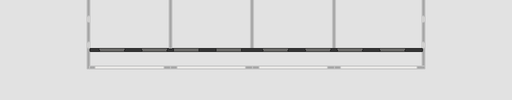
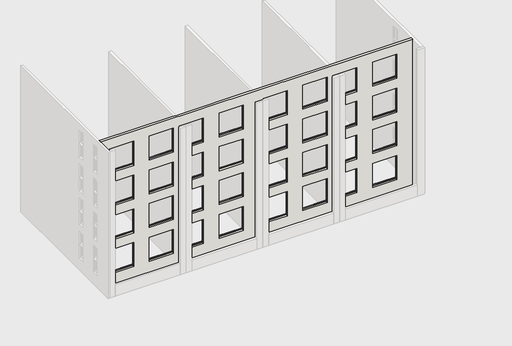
# One storey, part 3 of 5: 1 wall.
"""IFC4 building model written with IfcOpenShell, lengths in millimetres."""

from ifc_helpers import new_model, si_unit, origin, place, context, project, spatial, faceted_brep, element, save

model = new_model("IFC4")

# Units and contexts
model_context = context("Model", 3, world=origin())
ifc_project = project(units=[si_unit("LENGTHUNIT", "METRE", prefix="MILLI")], contexts=[model_context])

# Site, building, storey
site = spatial("IfcSite", under=ifc_project)
building = spatial("IfcBuilding", under=site)
storey = spatial("IfcBuildingStorey", under=building, Name="設計GL", Elevation=0.0)

# Wall
placement = place(None, origin())
element("IfcWall", 1, ObjectType="(R)RC200", at=placement, inside=storey, context=model_context, shape_type="Brep", body=[
    faceted_brep([(15121.2812754, -15270.1171638, -1200.0), (8271.2812754, -15270.1171638, -1200.0), (8071.2812754, -15270.1171638, -1200.0), (1821.2812754, -15270.1171638, -1200.0), (1621.2812754, -15270.1171638, -1200.0), (-4628.7187246, -15270.1171638, -1200.0), (-4828.7187246, -15270.1171638, -1200.0), (-11078.7187246, -15270.1171638, -1200.0), (-11078.7187246, -15270.1171638, 13000.0), (-4828.7187246, -15270.1171638, 13000.0), (-4628.7187246, -15270.1171638, 13000.0), (1621.2812754, -15270.1171638, 13000.0), (1821.2812754, -15270.1171638, 13000.0), (8071.2812754, -15270.1171638, 13000.0), (8271.2812754, -15270.1171638, 13000.0), (15121.2812754, -15270.1171638, 13000.0), (-10368.7187246, -15270.1171638, 3135.0), (-10368.7187246, -15270.1171638, 1065.0), (-8288.7187246, -15270.1171638, 1065.0), (-8288.7187246, -15270.1171638, 3135.0), (-7018.7187246, -15270.1171638, 3135.0), (-7018.7187246, -15270.1171638, 1065.0), (-4938.7187246, -15270.1171638, 1065.0), (-4938.7187246, -15270.1171638, 3135.0), (-4518.7187246, -15270.1171638, 3135.0), (-4518.7187246, -15270.1171638, 1065.0), (-2438.7187246, -15270.1171638, 1065.0), (-2438.7187246, -15270.1171638, 3135.0), (-1168.7187246, -15270.1171638, 3135.0), (-1168.7187246, -15270.1171638, 1065.0), (911.2812754, -15270.1171638, 1065.0), (911.2812754, -15270.1171638, 3135.0), (8381.2812754, -15270.1171638, 3135.0), (8381.2812754, -15270.1171638, 1065.0), (10461.2812754, -15270.1171638, 1065.0), (10461.2812754, -15270.1171638, 3135.0), (11731.2812754, -15270.1171638, 3135.0), (11731.2812754, -15270.1171638, 1065.0), (13811.2812754, -15270.1171638, 1065.0), (13811.2812754, -15270.1171638, 3135.0), (5881.2812754, -15270.1171638, 3135.0), (5881.2812754, -15270.1171638, 1065.0), (7961.2812754, -15270.1171638, 1065.0), (7961.2812754, -15270.1171638, 3135.0), (2531.2812754, -15270.1171638, 3135.0), (2531.2812754, -15270.1171638, 1065.0), (4611.2812754, -15270.1171638, 1065.0), (4611.2812754, -15270.1171638, 3135.0), (8381.2812754, -15270.1171638, 6135.0), (8381.2812754, -15270.1171638, 4065.0), (10461.2812754, -15270.1171638, 4065.0), (10461.2812754, -15270.1171638, 6135.0), (11731.2812754, -15270.1171638, 6135.0), (11731.2812754, -15270.1171638, 4065.0), (13811.2812754, -15270.1171638, 4065.0), (13811.2812754, -15270.1171638, 6135.0), (5881.2812754, -15270.1171638, 6135.0), (5881.2812754, -15270.1171638, 4065.0), (7961.2812754, -15270.1171638, 4065.0), (7961.2812754, -15270.1171638, 6135.0), (2531.2812754, -15270.1171638, 6135.0), (2531.2812754, -15270.1171638, 4065.0), (4611.2812754, -15270.1171638, 4065.0), (4611.2812754, -15270.1171638, 6135.0), (-4518.7187246, -15270.1171638, 6135.0), (-4518.7187246, -15270.1171638, 4065.0), (-2438.7187246, -15270.1171638, 4065.0), (-2438.7187246, -15270.1171638, 6135.0), (-1168.7187246, -15270.1171638, 6135.0), (-1168.7187246, -15270.1171638, 4065.0), (911.2812754, -15270.1171638, 4065.0), (911.2812754, -15270.1171638, 6135.0), (-7018.7187246, -15270.1171638, 6135.0), (-7018.7187246, -15270.1171638, 4065.0), (-4938.7187246, -15270.1171638, 4065.0), (-4938.7187246, -15270.1171638, 6135.0), (-10368.7187246, -15270.1171638, 6135.0), (-10368.7187246, -15270.1171638, 4065.0), (-8288.7187246, -15270.1171638, 4065.0), (-8288.7187246, -15270.1171638, 6135.0), (8381.2812754, -15270.1171638, 9135.0), (8381.2812754, -15270.1171638, 7065.0), (10461.2812754, -15270.1171638, 7065.0), (10461.2812754, -15270.1171638, 9135.0), (11731.2812754, -15270.1171638, 9135.0), (11731.2812754, -15270.1171638, 7065.0), (13811.2812754, -15270.1171638, 7065.0), (13811.2812754, -15270.1171638, 9135.0), (5881.2812754, -15270.1171638, 9135.0), (5881.2812754, -15270.1171638, 7065.0), (7961.2812754, -15270.1171638, 7065.0), (7961.2812754, -15270.1171638, 9135.0), (2531.2812754, -15270.1171638, 9135.0), (2531.2812754, -15270.1171638, 7065.0), (4611.2812754, -15270.1171638, 7065.0), (4611.2812754, -15270.1171638, 9135.0), (-4518.7187246, -15270.1171638, 9135.0), (-4518.7187246, -15270.1171638, 7065.0), (-2438.7187246, -15270.1171638, 7065.0), (-2438.7187246, -15270.1171638, 9135.0), (-1168.7187246, -15270.1171638, 9135.0), (-1168.7187246, -15270.1171638, 7065.0), (911.2812754, -15270.1171638, 7065.0), (911.2812754, -15270.1171638, 9135.0), (-7018.7187246, -15270.1171638, 9135.0), (-7018.7187246, -15270.1171638, 7065.0), (-4938.7187246, -15270.1171638, 7065.0), (-4938.7187246, -15270.1171638, 9135.0), (-10368.7187246, -15270.1171638, 9135.0), (-10368.7187246, -15270.1171638, 7065.0), (-8288.7187246, -15270.1171638, 7065.0), (-8288.7187246, -15270.1171638, 9135.0), (8381.2812754, -15270.1171638, 12135.0), (8381.2812754, -15270.1171638, 10065.0), (10461.2812754, -15270.1171638, 10065.0), (10461.2812754, -15270.1171638, 12135.0), (11731.2812754, -15270.1171638, 12135.0), (11731.2812754, -15270.1171638, 10065.0), (13811.2812754, -15270.1171638, 10065.0), (13811.2812754, -15270.1171638, 12135.0), (5881.2812754, -15270.1171638, 12135.0), (5881.2812754, -15270.1171638, 10065.0), (7961.2812754, -15270.1171638, 10065.0), (7961.2812754, -15270.1171638, 12135.0), (2531.2812754, -15270.1171638, 12135.0), (2531.2812754, -15270.1171638, 10065.0), (4611.2812754, -15270.1171638, 10065.0), (4611.2812754, -15270.1171638, 12135.0), (-4518.7187246, -15270.1171638, 12135.0), (-4518.7187246, -15270.1171638, 10065.0), (-2438.7187246, -15270.1171638, 10065.0), (-2438.7187246, -15270.1171638, 12135.0), (-1168.7187246, -15270.1171638, 12135.0), (-1168.7187246, -15270.1171638, 10065.0), (911.2812754, -15270.1171638, 10065.0), (911.2812754, -15270.1171638, 12135.0), (-7018.7187246, -15270.1171638, 12135.0), (-7018.7187246, -15270.1171638, 10065.0), (-4938.7187246, -15270.1171638, 10065.0), (-4938.7187246, -15270.1171638, 12135.0), (-10368.7187246, -15270.1171638, 12135.0), (-10368.7187246, -15270.1171638, 10065.0), (-8288.7187246, -15270.1171638, 10065.0), (-8288.7187246, -15270.1171638, 12135.0), (15121.2812754, -15470.1171638, -1200.0), (15121.2812754, -15470.1171638, 13000.0), (-11078.7187246, -15470.1171638, 13000.0), (-11078.7187246, -15470.1171638, -1200.0), (-8318.7187246, -15470.1171638, 975.0), (-10338.7187246, -15470.1171638, 975.0), (-10338.7187246, -15470.1171638, 3110.0), (-8318.7187246, -15470.1171638, 3110.0), (-4968.7187246, -15470.1171638, 975.0), (-6988.7187246, -15470.1171638, 975.0), (-6988.7187246, -15470.1171638, 3110.0), (-4968.7187246, -15470.1171638, 3110.0), (-2468.7187246, -15470.1171638, 975.0), (-4488.7187246, -15470.1171638, 975.0), (-4488.7187246, -15470.1171638, 3110.0), (-2468.7187246, -15470.1171638, 3110.0), (881.2812754, -15470.1171638, 975.0), (-1138.7187246, -15470.1171638, 975.0), (-1138.7187246, -15470.1171638, 3110.0), (881.2812754, -15470.1171638, 3110.0), (10431.2812754, -15470.1171638, 975.0), (8411.2812754, -15470.1171638, 975.0), (8411.2812754, -15470.1171638, 3110.0), (10431.2812754, -15470.1171638, 3110.0), (13781.2812754, -15470.1171638, 975.0), (11761.2812754, -15470.1171638, 975.0), (11761.2812754, -15470.1171638, 3110.0), (13781.2812754, -15470.1171638, 3110.0), (7931.2812754, -15470.1171638, 975.0), (5911.2812754, -15470.1171638, 975.0), (5911.2812754, -15470.1171638, 3110.0), (7931.2812754, -15470.1171638, 3110.0), (4581.2812754, -15470.1171638, 975.0), (2561.2812754, -15470.1171638, 975.0), (2561.2812754, -15470.1171638, 3110.0), (4581.2812754, -15470.1171638, 3110.0), (10431.2812754, -15470.1171638, 3975.0), (8411.2812754, -15470.1171638, 3975.0), (8411.2812754, -15470.1171638, 6110.0), (10431.2812754, -15470.1171638, 6110.0), (13781.2812754, -15470.1171638, 3975.0), (11761.2812754, -15470.1171638, 3975.0), (11761.2812754, -15470.1171638, 6110.0), (13781.2812754, -15470.1171638, 6110.0), (7931.2812754, -15470.1171638, 3975.0), (5911.2812754, -15470.1171638, 3975.0), (5911.2812754, -15470.1171638, 6110.0), (7931.2812754, -15470.1171638, 6110.0), (4581.2812754, -15470.1171638, 3975.0), (2561.2812754, -15470.1171638, 3975.0), (2561.2812754, -15470.1171638, 6110.0), (4581.2812754, -15470.1171638, 6110.0), (-2468.7187246, -15470.1171638, 3975.0), (-4488.7187246, -15470.1171638, 3975.0), (-4488.7187246, -15470.1171638, 6110.0), (-2468.7187246, -15470.1171638, 6110.0), (881.2812754, -15470.1171638, 3975.0), (-1138.7187246, -15470.1171638, 3975.0), (-1138.7187246, -15470.1171638, 6110.0), (881.2812754, -15470.1171638, 6110.0), (-4968.7187246, -15470.1171638, 3975.0), (-6988.7187246, -15470.1171638, 3975.0), (-6988.7187246, -15470.1171638, 6110.0), (-4968.7187246, -15470.1171638, 6110.0), (-8318.7187246, -15470.1171638, 3975.0), (-10338.7187246, -15470.1171638, 3975.0), (-10338.7187246, -15470.1171638, 6110.0), (-8318.7187246, -15470.1171638, 6110.0), (10431.2812754, -15470.1171638, 6975.0), (8411.2812754, -15470.1171638, 6975.0), (8411.2812754, -15470.1171638, 9110.0), (10431.2812754, -15470.1171638, 9110.0), (13781.2812754, -15470.1171638, 6975.0), (11761.2812754, -15470.1171638, 6975.0), (11761.2812754, -15470.1171638, 9110.0), (13781.2812754, -15470.1171638, 9110.0), (7931.2812754, -15470.1171638, 6975.0), (5911.2812754, -15470.1171638, 6975.0), (5911.2812754, -15470.1171638, 9110.0), (7931.2812754, -15470.1171638, 9110.0), (4581.2812754, -15470.1171638, 6975.0), (2561.2812754, -15470.1171638, 6975.0), (2561.2812754, -15470.1171638, 9110.0), (4581.2812754, -15470.1171638, 9110.0), (-2468.7187246, -15470.1171638, 6975.0), (-4488.7187246, -15470.1171638, 6975.0), (-4488.7187246, -15470.1171638, 9110.0), (-2468.7187246, -15470.1171638, 9110.0), (881.2812754, -15470.1171638, 6975.0), (-1138.7187246, -15470.1171638, 6975.0), (-1138.7187246, -15470.1171638, 9110.0), (881.2812754, -15470.1171638, 9110.0), (-4968.7187246, -15470.1171638, 6975.0), (-6988.7187246, -15470.1171638, 6975.0), (-6988.7187246, -15470.1171638, 9110.0), (-4968.7187246, -15470.1171638, 9110.0), (-8318.7187246, -15470.1171638, 6975.0), (-10338.7187246, -15470.1171638, 6975.0), (-10338.7187246, -15470.1171638, 9110.0), (-8318.7187246, -15470.1171638, 9110.0), (10431.2812754, -15470.1171638, 9975.0), (8411.2812754, -15470.1171638, 9975.0), (8411.2812754, -15470.1171638, 12110.0), (10431.2812754, -15470.1171638, 12110.0), (13781.2812754, -15470.1171638, 9975.0), (11761.2812754, -15470.1171638, 9975.0), (11761.2812754, -15470.1171638, 12110.0), (13781.2812754, -15470.1171638, 12110.0), (7931.2812754, -15470.1171638, 9975.0), (5911.2812754, -15470.1171638, 9975.0), (5911.2812754, -15470.1171638, 12110.0), (7931.2812754, -15470.1171638, 12110.0), (4581.2812754, -15470.1171638, 9975.0), (2561.2812754, -15470.1171638, 9975.0), (2561.2812754, -15470.1171638, 12110.0), (4581.2812754, -15470.1171638, 12110.0), (-2468.7187246, -15470.1171638, 9975.0), (-4488.7187246, -15470.1171638, 9975.0), (-4488.7187246, -15470.1171638, 12110.0), (-2468.7187246, -15470.1171638, 12110.0), (881.2812754, -15470.1171638, 9975.0), (-1138.7187246, -15470.1171638, 9975.0), (-1138.7187246, -15470.1171638, 12110.0), (881.2812754, -15470.1171638, 12110.0), (-4968.7187246, -15470.1171638, 9975.0), (-6988.7187246, -15470.1171638, 9975.0), (-6988.7187246, -15470.1171638, 12110.0), (-4968.7187246, -15470.1171638, 12110.0), (-8318.7187246, -15470.1171638, 9975.0), (-10338.7187246, -15470.1171638, 9975.0), (-10338.7187246, -15470.1171638, 12110.0), (-8318.7187246, -15470.1171638, 12110.0), (-10368.7187246, -15340.1171638, 3135.0), (-10368.7187246, -15340.1171638, 1065.0), (-8288.7187246, -15340.1171638, 1065.0), (-8288.7187246, -15340.1171638, 3135.0), (-10358.7187246, -15340.1171638, 1065.0), (-8298.7187246, -15340.1171638, 1065.0), (-8298.7187246, -15340.1171638, 3130.0), (-10358.7187246, -15340.1171638, 3130.0), (-10358.7187246, -15410.1171638, 3130.0), (-10358.7187246, -15410.1171638, 984.2307692), (-10358.7187246, -15340.1171638, 995.0), (-8298.7187246, -15340.1171638, 995.0), (-8298.7187246, -15410.1171638, 984.2307692), (-8298.7187246, -15410.1171638, 3130.0), (-10338.7187246, -15410.1171638, 984.2307692), (-8318.7187246, -15410.1171638, 984.2307692), (-8318.7187246, -15410.1171638, 3110.0), (-10338.7187246, -15410.1171638, 3110.0), (-7018.7187246, -15340.1171638, 3135.0), (-7018.7187246, -15340.1171638, 1065.0), (-4938.7187246, -15340.1171638, 1065.0), (-4938.7187246, -15340.1171638, 3135.0), (-7008.7187246, -15340.1171638, 1065.0), (-4948.7187246, -15340.1171638, 1065.0), (-4948.7187246, -15340.1171638, 3130.0), (-7008.7187246, -15340.1171638, 3130.0), (-7008.7187246, -15410.1171638, 3130.0), (-7008.7187246, -15410.1171638, 984.2307692), (-7008.7187246, -15340.1171638, 995.0), (-4948.7187246, -15340.1171638, 995.0), (-4948.7187246, -15410.1171638, 984.2307692), (-4948.7187246, -15410.1171638, 3130.0), (-6988.7187246, -15410.1171638, 984.2307692), (-4968.7187246, -15410.1171638, 984.2307692), (-4968.7187246, -15410.1171638, 3110.0), (-6988.7187246, -15410.1171638, 3110.0), (-4518.7187246, -15340.1171638, 3135.0), (-4518.7187246, -15340.1171638, 1065.0), (-2438.7187246, -15340.1171638, 1065.0), (-2438.7187246, -15340.1171638, 3135.0), (-4508.7187246, -15340.1171638, 1065.0), (-2448.7187246, -15340.1171638, 1065.0), (-2448.7187246, -15340.1171638, 3130.0), (-4508.7187246, -15340.1171638, 3130.0), (-4508.7187246, -15410.1171638, 3130.0), (-4508.7187246, -15410.1171638, 984.2307692), (-4508.7187246, -15340.1171638, 995.0), (-2448.7187246, -15340.1171638, 995.0), (-2448.7187246, -15410.1171638, 984.2307692), (-2448.7187246, -15410.1171638, 3130.0), (-4488.7187246, -15410.1171638, 984.2307692), (-2468.7187246, -15410.1171638, 984.2307692), (-2468.7187246, -15410.1171638, 3110.0), (-4488.7187246, -15410.1171638, 3110.0), (-1168.7187246, -15340.1171638, 3135.0), (-1168.7187246, -15340.1171638, 1065.0), (911.2812754, -15340.1171638, 1065.0), (911.2812754, -15340.1171638, 3135.0), (-1158.7187246, -15340.1171638, 1065.0), (901.2812754, -15340.1171638, 1065.0), (901.2812754, -15340.1171638, 3130.0), (-1158.7187246, -15340.1171638, 3130.0), (-1158.7187246, -15410.1171638, 3130.0), (-1158.7187246, -15410.1171638, 984.2307692), (-1158.7187246, -15340.1171638, 995.0), (901.2812754, -15340.1171638, 995.0), (901.2812754, -15410.1171638, 984.2307692), (901.2812754, -15410.1171638, 3130.0), (-1138.7187246, -15410.1171638, 984.2307692), (881.2812754, -15410.1171638, 984.2307692), (881.2812754, -15410.1171638, 3110.0), (-1138.7187246, -15410.1171638, 3110.0), (8381.2812754, -15340.1171638, 3135.0), (8381.2812754, -15340.1171638, 1065.0), (10461.2812754, -15340.1171638, 1065.0), (10461.2812754, -15340.1171638, 3135.0), (8391.2812754, -15340.1171638, 1065.0), (10451.2812754, -15340.1171638, 1065.0), (10451.2812754, -15340.1171638, 3130.0), (8391.2812754, -15340.1171638, 3130.0), (8391.2812754, -15410.1171638, 3130.0), (8391.2812754, -15410.1171638, 984.2307692), (8391.2812754, -15340.1171638, 995.0), (10451.2812754, -15340.1171638, 995.0), (10451.2812754, -15410.1171638, 984.2307692), (10451.2812754, -15410.1171638, 3130.0), (8411.2812754, -15410.1171638, 984.2307692), (10431.2812754, -15410.1171638, 984.2307692), (10431.2812754, -15410.1171638, 3110.0), (8411.2812754, -15410.1171638, 3110.0), (11731.2812754, -15340.1171638, 3135.0), (11731.2812754, -15340.1171638, 1065.0), (13811.2812754, -15340.1171638, 1065.0), (13811.2812754, -15340.1171638, 3135.0), (11741.2812754, -15340.1171638, 1065.0), (13801.2812754, -15340.1171638, 1065.0), (13801.2812754, -15340.1171638, 3130.0), (11741.2812754, -15340.1171638, 3130.0), (11741.2812754, -15410.1171638, 3130.0), (11741.2812754, -15410.1171638, 984.2307692), (11741.2812754, -15340.1171638, 995.0), (13801.2812754, -15340.1171638, 995.0), (13801.2812754, -15410.1171638, 984.2307692), (13801.2812754, -15410.1171638, 3130.0), (11761.2812754, -15410.1171638, 984.2307692), (13781.2812754, -15410.1171638, 984.2307692), (13781.2812754, -15410.1171638, 3110.0), (11761.2812754, -15410.1171638, 3110.0), (5881.2812754, -15340.1171638, 3135.0), (5881.2812754, -15340.1171638, 1065.0), (7961.2812754, -15340.1171638, 1065.0), (7961.2812754, -15340.1171638, 3135.0), (5891.2812754, -15340.1171638, 1065.0), (7951.2812754, -15340.1171638, 1065.0), (7951.2812754, -15340.1171638, 3130.0), (5891.2812754, -15340.1171638, 3130.0), (5891.2812754, -15410.1171638, 3130.0), (5891.2812754, -15410.1171638, 984.2307692), (5891.2812754, -15340.1171638, 995.0), (7951.2812754, -15340.1171638, 995.0), (7951.2812754, -15410.1171638, 984.2307692), (7951.2812754, -15410.1171638, 3130.0), (5911.2812754, -15410.1171638, 984.2307692), (7931.2812754, -15410.1171638, 984.2307692), (7931.2812754, -15410.1171638, 3110.0), (5911.2812754, -15410.1171638, 3110.0), (2531.2812754, -15340.1171638, 3135.0), (2531.2812754, -15340.1171638, 1065.0), (4611.2812754, -15340.1171638, 1065.0), (4611.2812754, -15340.1171638, 3135.0), (2541.2812754, -15340.1171638, 1065.0), (4601.2812754, -15340.1171638, 1065.0), (4601.2812754, -15340.1171638, 3130.0), (2541.2812754, -15340.1171638, 3130.0), (2541.2812754, -15410.1171638, 3130.0), (2541.2812754, -15410.1171638, 984.2307692), (2541.2812754, -15340.1171638, 995.0), (4601.2812754, -15340.1171638, 995.0), (4601.2812754, -15410.1171638, 984.2307692), (4601.2812754, -15410.1171638, 3130.0), (2561.2812754, -15410.1171638, 984.2307692), (4581.2812754, -15410.1171638, 984.2307692), (4581.2812754, -15410.1171638, 3110.0), (2561.2812754, -15410.1171638, 3110.0), (8381.2812754, -15340.1171638, 6135.0), (8381.2812754, -15340.1171638, 4065.0), (10461.2812754, -15340.1171638, 4065.0), (10461.2812754, -15340.1171638, 6135.0), (8391.2812754, -15340.1171638, 4065.0), (10451.2812754, -15340.1171638, 4065.0), (10451.2812754, -15340.1171638, 6130.0), (8391.2812754, -15340.1171638, 6130.0), (8391.2812754, -15410.1171638, 6130.0), (8391.2812754, -15410.1171638, 3984.2307692), (8391.2812754, -15340.1171638, 3995.0), (10451.2812754, -15340.1171638, 3995.0), (10451.2812754, -15410.1171638, 3984.2307692), (10451.2812754, -15410.1171638, 6130.0), (8411.2812754, -15410.1171638, 3984.2307692), (10431.2812754, -15410.1171638, 3984.2307692), (10431.2812754, -15410.1171638, 6110.0), (8411.2812754, -15410.1171638, 6110.0), (11731.2812754, -15340.1171638, 6135.0), (11731.2812754, -15340.1171638, 4065.0), (13811.2812754, -15340.1171638, 4065.0), (13811.2812754, -15340.1171638, 6135.0), (11741.2812754, -15340.1171638, 4065.0), (13801.2812754, -15340.1171638, 4065.0), (13801.2812754, -15340.1171638, 6130.0), (11741.2812754, -15340.1171638, 6130.0), (11741.2812754, -15410.1171638, 6130.0), (11741.2812754, -15410.1171638, 3984.2307692), (11741.2812754, -15340.1171638, 3995.0), (13801.2812754, -15340.1171638, 3995.0), (13801.2812754, -15410.1171638, 3984.2307692), (13801.2812754, -15410.1171638, 6130.0), (11761.2812754, -15410.1171638, 3984.2307692), (13781.2812754, -15410.1171638, 3984.2307692), (13781.2812754, -15410.1171638, 6110.0), (11761.2812754, -15410.1171638, 6110.0), (5881.2812754, -15340.1171638, 6135.0), (5881.2812754, -15340.1171638, 4065.0), (7961.2812754, -15340.1171638, 4065.0), (7961.2812754, -15340.1171638, 6135.0), (5891.2812754, -15340.1171638, 4065.0), (7951.2812754, -15340.1171638, 4065.0), (7951.2812754, -15340.1171638, 6130.0), (5891.2812754, -15340.1171638, 6130.0), (5891.2812754, -15410.1171638, 6130.0), (5891.2812754, -15410.1171638, 3984.2307692), (5891.2812754, -15340.1171638, 3995.0), (7951.2812754, -15340.1171638, 3995.0), (7951.2812754, -15410.1171638, 3984.2307692), (7951.2812754, -15410.1171638, 6130.0), (5911.2812754, -15410.1171638, 3984.2307692), (7931.2812754, -15410.1171638, 3984.2307692), (7931.2812754, -15410.1171638, 6110.0), (5911.2812754, -15410.1171638, 6110.0), (2531.2812754, -15340.1171638, 6135.0), (2531.2812754, -15340.1171638, 4065.0), (4611.2812754, -15340.1171638, 4065.0), (4611.2812754, -15340.1171638, 6135.0), (2541.2812754, -15340.1171638, 4065.0), (4601.2812754, -15340.1171638, 4065.0), (4601.2812754, -15340.1171638, 6130.0), (2541.2812754, -15340.1171638, 6130.0), (2541.2812754, -15410.1171638, 6130.0), (2541.2812754, -15410.1171638, 3984.2307692), (2541.2812754, -15340.1171638, 3995.0), (4601.2812754, -15340.1171638, 3995.0), (4601.2812754, -15410.1171638, 3984.2307692), (4601.2812754, -15410.1171638, 6130.0), (2561.2812754, -15410.1171638, 3984.2307692), (4581.2812754, -15410.1171638, 3984.2307692), (4581.2812754, -15410.1171638, 6110.0), (2561.2812754, -15410.1171638, 6110.0), (-4518.7187246, -15340.1171638, 6135.0), (-4518.7187246, -15340.1171638, 4065.0), (-2438.7187246, -15340.1171638, 4065.0), (-2438.7187246, -15340.1171638, 6135.0), (-4508.7187246, -15340.1171638, 4065.0), (-2448.7187246, -15340.1171638, 4065.0), (-2448.7187246, -15340.1171638, 6130.0), (-4508.7187246, -15340.1171638, 6130.0), (-4508.7187246, -15410.1171638, 6130.0), (-4508.7187246, -15410.1171638, 3984.2307692), (-4508.7187246, -15340.1171638, 3995.0), (-2448.7187246, -15340.1171638, 3995.0), (-2448.7187246, -15410.1171638, 3984.2307692), (-2448.7187246, -15410.1171638, 6130.0), (-4488.7187246, -15410.1171638, 3984.2307692), (-2468.7187246, -15410.1171638, 3984.2307692), (-2468.7187246, -15410.1171638, 6110.0), (-4488.7187246, -15410.1171638, 6110.0), (-1168.7187246, -15340.1171638, 6135.0), (-1168.7187246, -15340.1171638, 4065.0), (911.2812754, -15340.1171638, 4065.0), (911.2812754, -15340.1171638, 6135.0), (-1158.7187246, -15340.1171638, 4065.0), (901.2812754, -15340.1171638, 4065.0), (901.2812754, -15340.1171638, 6130.0), (-1158.7187246, -15340.1171638, 6130.0), (-1158.7187246, -15410.1171638, 6130.0), (-1158.7187246, -15410.1171638, 3984.2307692), (-1158.7187246, -15340.1171638, 3995.0), (901.2812754, -15340.1171638, 3995.0), (901.2812754, -15410.1171638, 3984.2307692), (901.2812754, -15410.1171638, 6130.0), (-1138.7187246, -15410.1171638, 3984.2307692), (881.2812754, -15410.1171638, 3984.2307692), (881.2812754, -15410.1171638, 6110.0), (-1138.7187246, -15410.1171638, 6110.0), (-7018.7187246, -15340.1171638, 6135.0), (-7018.7187246, -15340.1171638, 4065.0), (-4938.7187246, -15340.1171638, 4065.0), (-4938.7187246, -15340.1171638, 6135.0), (-7008.7187246, -15340.1171638, 4065.0), (-4948.7187246, -15340.1171638, 4065.0), (-4948.7187246, -15340.1171638, 6130.0), (-7008.7187246, -15340.1171638, 6130.0), (-7008.7187246, -15410.1171638, 6130.0), (-7008.7187246, -15410.1171638, 3984.2307692), (-7008.7187246, -15340.1171638, 3995.0), (-4948.7187246, -15340.1171638, 3995.0), (-4948.7187246, -15410.1171638, 3984.2307692), (-4948.7187246, -15410.1171638, 6130.0), (-6988.7187246, -15410.1171638, 3984.2307692), (-4968.7187246, -15410.1171638, 3984.2307692), (-4968.7187246, -15410.1171638, 6110.0), (-6988.7187246, -15410.1171638, 6110.0), (-10368.7187246, -15340.1171638, 6135.0), (-10368.7187246, -15340.1171638, 4065.0), (-8288.7187246, -15340.1171638, 4065.0), (-8288.7187246, -15340.1171638, 6135.0), (-10358.7187246, -15340.1171638, 4065.0), (-8298.7187246, -15340.1171638, 4065.0), (-8298.7187246, -15340.1171638, 6130.0), (-10358.7187246, -15340.1171638, 6130.0), (-10358.7187246, -15410.1171638, 6130.0), (-10358.7187246, -15410.1171638, 3984.2307692), (-10358.7187246, -15340.1171638, 3995.0), (-8298.7187246, -15340.1171638, 3995.0), (-8298.7187246, -15410.1171638, 3984.2307692), (-8298.7187246, -15410.1171638, 6130.0), (-10338.7187246, -15410.1171638, 3984.2307692), (-8318.7187246, -15410.1171638, 3984.2307692), (-8318.7187246, -15410.1171638, 6110.0), (-10338.7187246, -15410.1171638, 6110.0), (8381.2812754, -15340.1171638, 9135.0), (8381.2812754, -15340.1171638, 7065.0), (10461.2812754, -15340.1171638, 7065.0), (10461.2812754, -15340.1171638, 9135.0), (8391.2812754, -15340.1171638, 7065.0), (10451.2812754, -15340.1171638, 7065.0), (10451.2812754, -15340.1171638, 9130.0), (8391.2812754, -15340.1171638, 9130.0), (8391.2812754, -15410.1171638, 9130.0), (8391.2812754, -15410.1171638, 6984.2307692), (8391.2812754, -15340.1171638, 6995.0), (10451.2812754, -15340.1171638, 6995.0), (10451.2812754, -15410.1171638, 6984.2307692), (10451.2812754, -15410.1171638, 9130.0), (8411.2812754, -15410.1171638, 6984.2307692), (10431.2812754, -15410.1171638, 6984.2307692), (10431.2812754, -15410.1171638, 9110.0), (8411.2812754, -15410.1171638, 9110.0), (11731.2812754, -15340.1171638, 9135.0), (11731.2812754, -15340.1171638, 7065.0), (13811.2812754, -15340.1171638, 7065.0), (13811.2812754, -15340.1171638, 9135.0), (11741.2812754, -15340.1171638, 7065.0), (13801.2812754, -15340.1171638, 7065.0), (13801.2812754, -15340.1171638, 9130.0), (11741.2812754, -15340.1171638, 9130.0), (11741.2812754, -15410.1171638, 9130.0), (11741.2812754, -15410.1171638, 6984.2307692), (11741.2812754, -15340.1171638, 6995.0), (13801.2812754, -15340.1171638, 6995.0), (13801.2812754, -15410.1171638, 6984.2307692), (13801.2812754, -15410.1171638, 9130.0), (11761.2812754, -15410.1171638, 6984.2307692), (13781.2812754, -15410.1171638, 6984.2307692), (13781.2812754, -15410.1171638, 9110.0), (11761.2812754, -15410.1171638, 9110.0), (5881.2812754, -15340.1171638, 9135.0), (5881.2812754, -15340.1171638, 7065.0), (7961.2812754, -15340.1171638, 7065.0), (7961.2812754, -15340.1171638, 9135.0), (5891.2812754, -15340.1171638, 7065.0), (7951.2812754, -15340.1171638, 7065.0), (7951.2812754, -15340.1171638, 9130.0), (5891.2812754, -15340.1171638, 9130.0), (5891.2812754, -15410.1171638, 9130.0), (5891.2812754, -15410.1171638, 6984.2307692), (5891.2812754, -15340.1171638, 6995.0), (7951.2812754, -15340.1171638, 6995.0), (7951.2812754, -15410.1171638, 6984.2307692), (7951.2812754, -15410.1171638, 9130.0), (5911.2812754, -15410.1171638, 6984.2307692), (7931.2812754, -15410.1171638, 6984.2307692), (7931.2812754, -15410.1171638, 9110.0), (5911.2812754, -15410.1171638, 9110.0), (2531.2812754, -15340.1171638, 9135.0), (2531.2812754, -15340.1171638, 7065.0), (4611.2812754, -15340.1171638, 7065.0), (4611.2812754, -15340.1171638, 9135.0), (2541.2812754, -15340.1171638, 7065.0), (4601.2812754, -15340.1171638, 7065.0), (4601.2812754, -15340.1171638, 9130.0), (2541.2812754, -15340.1171638, 9130.0), (2541.2812754, -15410.1171638, 9130.0), (2541.2812754, -15410.1171638, 6984.2307692), (2541.2812754, -15340.1171638, 6995.0), (4601.2812754, -15340.1171638, 6995.0), (4601.2812754, -15410.1171638, 6984.2307692), (4601.2812754, -15410.1171638, 9130.0), (2561.2812754, -15410.1171638, 6984.2307692), (4581.2812754, -15410.1171638, 6984.2307692), (4581.2812754, -15410.1171638, 9110.0), (2561.2812754, -15410.1171638, 9110.0), (-4518.7187246, -15340.1171638, 9135.0), (-4518.7187246, -15340.1171638, 7065.0), (-2438.7187246, -15340.1171638, 7065.0), (-2438.7187246, -15340.1171638, 9135.0), (-4508.7187246, -15340.1171638, 7065.0), (-2448.7187246, -15340.1171638, 7065.0), (-2448.7187246, -15340.1171638, 9130.0), (-4508.7187246, -15340.1171638, 9130.0), (-4508.7187246, -15410.1171638, 9130.0), (-4508.7187246, -15410.1171638, 6984.2307692), (-4508.7187246, -15340.1171638, 6995.0), (-2448.7187246, -15340.1171638, 6995.0), (-2448.7187246, -15410.1171638, 6984.2307692), (-2448.7187246, -15410.1171638, 9130.0), (-4488.7187246, -15410.1171638, 6984.2307692), (-2468.7187246, -15410.1171638, 6984.2307692), (-2468.7187246, -15410.1171638, 9110.0), (-4488.7187246, -15410.1171638, 9110.0), (-1168.7187246, -15340.1171638, 9135.0), (-1168.7187246, -15340.1171638, 7065.0), (911.2812754, -15340.1171638, 7065.0), (911.2812754, -15340.1171638, 9135.0), (-1158.7187246, -15340.1171638, 7065.0), (901.2812754, -15340.1171638, 7065.0), (901.2812754, -15340.1171638, 9130.0), (-1158.7187246, -15340.1171638, 9130.0), (-1158.7187246, -15410.1171638, 9130.0), (-1158.7187246, -15410.1171638, 6984.2307692), (-1158.7187246, -15340.1171638, 6995.0), (901.2812754, -15340.1171638, 6995.0), (901.2812754, -15410.1171638, 6984.2307692), (901.2812754, -15410.1171638, 9130.0), (-1138.7187246, -15410.1171638, 6984.2307692), (881.2812754, -15410.1171638, 6984.2307692), (881.2812754, -15410.1171638, 9110.0), (-1138.7187246, -15410.1171638, 9110.0), (-7018.7187246, -15340.1171638, 9135.0), (-7018.7187246, -15340.1171638, 7065.0), (-4938.7187246, -15340.1171638, 7065.0), (-4938.7187246, -15340.1171638, 9135.0), (-7008.7187246, -15340.1171638, 7065.0), (-4948.7187246, -15340.1171638, 7065.0), (-4948.7187246, -15340.1171638, 9130.0), (-7008.7187246, -15340.1171638, 9130.0), (-7008.7187246, -15410.1171638, 9130.0), (-7008.7187246, -15410.1171638, 6984.2307692), (-7008.7187246, -15340.1171638, 6995.0), (-4948.7187246, -15340.1171638, 6995.0), (-4948.7187246, -15410.1171638, 6984.2307692), (-4948.7187246, -15410.1171638, 9130.0), (-6988.7187246, -15410.1171638, 6984.2307692), (-4968.7187246, -15410.1171638, 6984.2307692), (-4968.7187246, -15410.1171638, 9110.0), (-6988.7187246, -15410.1171638, 9110.0), (-10368.7187246, -15340.1171638, 9135.0), (-10368.7187246, -15340.1171638, 7065.0), (-8288.7187246, -15340.1171638, 7065.0), (-8288.7187246, -15340.1171638, 9135.0), (-10358.7187246, -15340.1171638, 7065.0), (-8298.7187246, -15340.1171638, 7065.0), (-8298.7187246, -15340.1171638, 9130.0), (-10358.7187246, -15340.1171638, 9130.0), (-10358.7187246, -15410.1171638, 9130.0), (-10358.7187246, -15410.1171638, 6984.2307692), (-10358.7187246, -15340.1171638, 6995.0), (-8298.7187246, -15340.1171638, 6995.0), (-8298.7187246, -15410.1171638, 6984.2307692), (-8298.7187246, -15410.1171638, 9130.0), (-10338.7187246, -15410.1171638, 6984.2307692), (-8318.7187246, -15410.1171638, 6984.2307692), (-8318.7187246, -15410.1171638, 9110.0), (-10338.7187246, -15410.1171638, 9110.0), (8381.2812754, -15340.1171638, 12135.0), (8381.2812754, -15340.1171638, 10065.0), (10461.2812754, -15340.1171638, 10065.0), (10461.2812754, -15340.1171638, 12135.0), (8391.2812754, -15340.1171638, 10065.0), (10451.2812754, -15340.1171638, 10065.0), (10451.2812754, -15340.1171638, 12130.0), (8391.2812754, -15340.1171638, 12130.0), (8391.2812754, -15410.1171638, 12130.0), (8391.2812754, -15410.1171638, 9984.2307692), (8391.2812754, -15340.1171638, 9995.0), (10451.2812754, -15340.1171638, 9995.0), (10451.2812754, -15410.1171638, 9984.2307692), (10451.2812754, -15410.1171638, 12130.0), (8411.2812754, -15410.1171638, 9984.2307692), (10431.2812754, -15410.1171638, 9984.2307692), (10431.2812754, -15410.1171638, 12110.0), (8411.2812754, -15410.1171638, 12110.0), (11731.2812754, -15340.1171638, 12135.0), (11731.2812754, -15340.1171638, 10065.0), (13811.2812754, -15340.1171638, 10065.0), (13811.2812754, -15340.1171638, 12135.0), (11741.2812754, -15340.1171638, 10065.0), (13801.2812754, -15340.1171638, 10065.0), (13801.2812754, -15340.1171638, 12130.0), (11741.2812754, -15340.1171638, 12130.0), (11741.2812754, -15410.1171638, 12130.0), (11741.2812754, -15410.1171638, 9984.2307692), (11741.2812754, -15340.1171638, 9995.0), (13801.2812754, -15340.1171638, 9995.0), (13801.2812754, -15410.1171638, 9984.2307692), (13801.2812754, -15410.1171638, 12130.0), (11761.2812754, -15410.1171638, 9984.2307692), (13781.2812754, -15410.1171638, 9984.2307692), (13781.2812754, -15410.1171638, 12110.0), (11761.2812754, -15410.1171638, 12110.0), (5881.2812754, -15340.1171638, 12135.0), (5881.2812754, -15340.1171638, 10065.0), (7961.2812754, -15340.1171638, 10065.0), (7961.2812754, -15340.1171638, 12135.0), (5891.2812754, -15340.1171638, 10065.0), (7951.2812754, -15340.1171638, 10065.0), (7951.2812754, -15340.1171638, 12130.0), (5891.2812754, -15340.1171638, 12130.0), (5891.2812754, -15410.1171638, 12130.0), (5891.2812754, -15410.1171638, 9984.2307692), (5891.2812754, -15340.1171638, 9995.0), (7951.2812754, -15340.1171638, 9995.0), (7951.2812754, -15410.1171638, 9984.2307692), (7951.2812754, -15410.1171638, 12130.0), (5911.2812754, -15410.1171638, 9984.2307692), (7931.2812754, -15410.1171638, 9984.2307692), (7931.2812754, -15410.1171638, 12110.0), (5911.2812754, -15410.1171638, 12110.0), (2531.2812754, -15340.1171638, 12135.0), (2531.2812754, -15340.1171638, 10065.0), (4611.2812754, -15340.1171638, 10065.0), (4611.2812754, -15340.1171638, 12135.0), (2541.2812754, -15340.1171638, 10065.0), (4601.2812754, -15340.1171638, 10065.0), (4601.2812754, -15340.1171638, 12130.0), (2541.2812754, -15340.1171638, 12130.0), (2541.2812754, -15410.1171638, 12130.0), (2541.2812754, -15410.1171638, 9984.2307692), (2541.2812754, -15340.1171638, 9995.0), (4601.2812754, -15340.1171638, 9995.0), (4601.2812754, -15410.1171638, 9984.2307692), (4601.2812754, -15410.1171638, 12130.0), (2561.2812754, -15410.1171638, 9984.2307692), (4581.2812754, -15410.1171638, 9984.2307692), (4581.2812754, -15410.1171638, 12110.0), (2561.2812754, -15410.1171638, 12110.0), (-4518.7187246, -15340.1171638, 12135.0), (-4518.7187246, -15340.1171638, 10065.0), (-2438.7187246, -15340.1171638, 10065.0), (-2438.7187246, -15340.1171638, 12135.0), (-4508.7187246, -15340.1171638, 10065.0), (-2448.7187246, -15340.1171638, 10065.0), (-2448.7187246, -15340.1171638, 12130.0), (-4508.7187246, -15340.1171638, 12130.0), (-4508.7187246, -15410.1171638, 12130.0), (-4508.7187246, -15410.1171638, 9984.2307692), (-4508.7187246, -15340.1171638, 9995.0), (-2448.7187246, -15340.1171638, 9995.0), (-2448.7187246, -15410.1171638, 9984.2307692), (-2448.7187246, -15410.1171638, 12130.0), (-4488.7187246, -15410.1171638, 9984.2307692), (-2468.7187246, -15410.1171638, 9984.2307692), (-2468.7187246, -15410.1171638, 12110.0), (-4488.7187246, -15410.1171638, 12110.0), (-1168.7187246, -15340.1171638, 12135.0), (-1168.7187246, -15340.1171638, 10065.0), (911.2812754, -15340.1171638, 10065.0), (911.2812754, -15340.1171638, 12135.0), (-1158.7187246, -15340.1171638, 10065.0), (901.2812754, -15340.1171638, 10065.0), (901.2812754, -15340.1171638, 12130.0), (-1158.7187246, -15340.1171638, 12130.0), (-1158.7187246, -15410.1171638, 12130.0), (-1158.7187246, -15410.1171638, 9984.2307692), (-1158.7187246, -15340.1171638, 9995.0), (901.2812754, -15340.1171638, 9995.0), (901.2812754, -15410.1171638, 9984.2307692), (901.2812754, -15410.1171638, 12130.0), (-1138.7187246, -15410.1171638, 9984.2307692), (881.2812754, -15410.1171638, 9984.2307692), (881.2812754, -15410.1171638, 12110.0), (-1138.7187246, -15410.1171638, 12110.0), (-7018.7187246, -15340.1171638, 12135.0), (-7018.7187246, -15340.1171638, 10065.0), (-4938.7187246, -15340.1171638, 10065.0), (-4938.7187246, -15340.1171638, 12135.0), (-7008.7187246, -15340.1171638, 10065.0), (-4948.7187246, -15340.1171638, 10065.0), (-4948.7187246, -15340.1171638, 12130.0), (-7008.7187246, -15340.1171638, 12130.0), (-7008.7187246, -15410.1171638, 12130.0), (-7008.7187246, -15410.1171638, 9984.2307692), (-7008.7187246, -15340.1171638, 9995.0), (-4948.7187246, -15340.1171638, 9995.0), (-4948.7187246, -15410.1171638, 9984.2307692), (-4948.7187246, -15410.1171638, 12130.0), (-6988.7187246, -15410.1171638, 9984.2307692), (-4968.7187246, -15410.1171638, 9984.2307692), (-4968.7187246, -15410.1171638, 12110.0), (-6988.7187246, -15410.1171638, 12110.0), (-10368.7187246, -15340.1171638, 12135.0), (-10368.7187246, -15340.1171638, 10065.0), (-8288.7187246, -15340.1171638, 10065.0), (-8288.7187246, -15340.1171638, 12135.0), (-10358.7187246, -15340.1171638, 10065.0), (-8298.7187246, -15340.1171638, 10065.0), (-8298.7187246, -15340.1171638, 12130.0), (-10358.7187246, -15340.1171638, 12130.0), (-10358.7187246, -15410.1171638, 12130.0), (-10358.7187246, -15410.1171638, 9984.2307692), (-10358.7187246, -15340.1171638, 9995.0), (-8298.7187246, -15340.1171638, 9995.0), (-8298.7187246, -15410.1171638, 9984.2307692), (-8298.7187246, -15410.1171638, 12130.0), (-10338.7187246, -15410.1171638, 9984.2307692), (-8318.7187246, -15410.1171638, 9984.2307692), (-8318.7187246, -15410.1171638, 12110.0), (-10338.7187246, -15410.1171638, 12110.0)], [[[0, 1, 2, 3, 4, 5, 6, 7, 8, 9, 10, 11, 12, 13, 14, 15], [16, 17, 18, 19], [20, 21, 22, 23], [24, 25, 26, 27], [28, 29, 30, 31], [32, 33, 34, 35], [36, 37, 38, 39], [40, 41, 42, 43], [44, 45, 46, 47], [48, 49, 50, 51], [52, 53, 54, 55], [56, 57, 58, 59], [60, 61, 62, 63], [64, 65, 66, 67], [68, 69, 70, 71], [72, 73, 74, 75], [76, 77, 78, 79], [80, 81, 82, 83], [84, 85, 86, 87], [88, 89, 90, 91], [92, 93, 94, 95], [96, 97, 98, 99], [100, 101, 102, 103], [104, 105, 106, 107], [108, 109, 110, 111], [112, 113, 114, 115], [116, 117, 118, 119], [120, 121, 122, 123], [124, 125, 126, 127], [128, 129, 130, 131], [132, 133, 134, 135], [136, 137, 138, 139], [140, 141, 142, 143]], [[144, 145, 146, 147], [148, 149, 150, 151], [152, 153, 154, 155], [156, 157, 158, 159], [160, 161, 162, 163], [164, 165, 166, 167], [168, 169, 170, 171], [172, 173, 174, 175], [176, 177, 178, 179], [180, 181, 182, 183], [184, 185, 186, 187], [188, 189, 190, 191], [192, 193, 194, 195], [196, 197, 198, 199], [200, 201, 202, 203], [204, 205, 206, 207], [208, 209, 210, 211], [212, 213, 214, 215], [216, 217, 218, 219], [220, 221, 222, 223], [224, 225, 226, 227], [228, 229, 230, 231], [232, 233, 234, 235], [236, 237, 238, 239], [240, 241, 242, 243], [244, 245, 246, 247], [248, 249, 250, 251], [252, 253, 254, 255], [256, 257, 258, 259], [260, 261, 262, 263], [264, 265, 266, 267], [268, 269, 270, 271], [272, 273, 274, 275]], [[7, 6, 5, 4, 3, 2, 1, 0, 144, 147]], [[15, 14, 13, 12, 11, 10, 9, 8, 146, 145]], [[0, 15, 145, 144]], [[8, 7, 147, 146]], [[276, 277, 17, 16]], [[278, 279, 19, 18]], [[17, 277, 280, 281, 278, 18]], [[277, 276, 279, 278, 281, 282, 283, 280]], [[279, 276, 16, 19]], [[283, 284, 285, 286, 280]], [[287, 288, 289, 282, 281]], [[286, 285, 290, 149, 148, 291, 288, 287]], [[285, 284, 289, 288, 291, 292, 293, 290]], [[284, 283, 282, 289]], [[286, 287, 281, 280]], [[293, 150, 149, 290]], [[291, 148, 151, 292]], [[150, 293, 292, 151]], [[294, 295, 21, 20]], [[296, 297, 23, 22]], [[21, 295, 298, 299, 296, 22]], [[295, 294, 297, 296, 299, 300, 301, 298]], [[297, 294, 20, 23]], [[301, 302, 303, 304, 298]], [[305, 306, 307, 300, 299]], [[304, 303, 308, 153, 152, 309, 306, 305]], [[303, 302, 307, 306, 309, 310, 311, 308]], [[302, 301, 300, 307]], [[304, 305, 299, 298]], [[311, 154, 153, 308]], [[309, 152, 155, 310]], [[154, 311, 310, 155]], [[312, 313, 25, 24]], [[314, 315, 27, 26]], [[25, 313, 316, 317, 314, 26]], [[313, 312, 315, 314, 317, 318, 319, 316]], [[315, 312, 24, 27]], [[319, 320, 321, 322, 316]], [[323, 324, 325, 318, 317]], [[322, 321, 326, 157, 156, 327, 324, 323]], [[321, 320, 325, 324, 327, 328, 329, 326]], [[320, 319, 318, 325]], [[322, 323, 317, 316]], [[329, 158, 157, 326]], [[327, 156, 159, 328]], [[158, 329, 328, 159]], [[330, 331, 29, 28]], [[332, 333, 31, 30]], [[29, 331, 334, 335, 332, 30]], [[331, 330, 333, 332, 335, 336, 337, 334]], [[333, 330, 28, 31]], [[337, 338, 339, 340, 334]], [[341, 342, 343, 336, 335]], [[340, 339, 344, 161, 160, 345, 342, 341]], [[339, 338, 343, 342, 345, 346, 347, 344]], [[338, 337, 336, 343]], [[340, 341, 335, 334]], [[347, 162, 161, 344]], [[345, 160, 163, 346]], [[162, 347, 346, 163]], [[348, 349, 33, 32]], [[350, 351, 35, 34]], [[33, 349, 352, 353, 350, 34]], [[349, 348, 351, 350, 353, 354, 355, 352]], [[351, 348, 32, 35]], [[355, 356, 357, 358, 352]], [[359, 360, 361, 354, 353]], [[358, 357, 362, 165, 164, 363, 360, 359]], [[357, 356, 361, 360, 363, 364, 365, 362]], [[356, 355, 354, 361]], [[358, 359, 353, 352]], [[365, 166, 165, 362]], [[363, 164, 167, 364]], [[166, 365, 364, 167]], [[366, 367, 37, 36]], [[368, 369, 39, 38]], [[37, 367, 370, 371, 368, 38]], [[367, 366, 369, 368, 371, 372, 373, 370]], [[369, 366, 36, 39]], [[373, 374, 375, 376, 370]], [[377, 378, 379, 372, 371]], [[376, 375, 380, 169, 168, 381, 378, 377]], [[375, 374, 379, 378, 381, 382, 383, 380]], [[374, 373, 372, 379]], [[376, 377, 371, 370]], [[383, 170, 169, 380]], [[381, 168, 171, 382]], [[170, 383, 382, 171]], [[384, 385, 41, 40]], [[386, 387, 43, 42]], [[41, 385, 388, 389, 386, 42]], [[385, 384, 387, 386, 389, 390, 391, 388]], [[387, 384, 40, 43]], [[391, 392, 393, 394, 388]], [[395, 396, 397, 390, 389]], [[394, 393, 398, 173, 172, 399, 396, 395]], [[393, 392, 397, 396, 399, 400, 401, 398]], [[392, 391, 390, 397]], [[394, 395, 389, 388]], [[401, 174, 173, 398]], [[399, 172, 175, 400]], [[174, 401, 400, 175]], [[402, 403, 45, 44]], [[404, 405, 47, 46]], [[45, 403, 406, 407, 404, 46]], [[403, 402, 405, 404, 407, 408, 409, 406]], [[405, 402, 44, 47]], [[409, 410, 411, 412, 406]], [[413, 414, 415, 408, 407]], [[412, 411, 416, 177, 176, 417, 414, 413]], [[411, 410, 415, 414, 417, 418, 419, 416]], [[410, 409, 408, 415]], [[412, 413, 407, 406]], [[419, 178, 177, 416]], [[417, 176, 179, 418]], [[178, 419, 418, 179]], [[420, 421, 49, 48]], [[422, 423, 51, 50]], [[49, 421, 424, 425, 422, 50]], [[421, 420, 423, 422, 425, 426, 427, 424]], [[423, 420, 48, 51]], [[427, 428, 429, 430, 424]], [[431, 432, 433, 426, 425]], [[430, 429, 434, 181, 180, 435, 432, 431]], [[429, 428, 433, 432, 435, 436, 437, 434]], [[428, 427, 426, 433]], [[430, 431, 425, 424]], [[437, 182, 181, 434]], [[435, 180, 183, 436]], [[182, 437, 436, 183]], [[438, 439, 53, 52]], [[440, 441, 55, 54]], [[53, 439, 442, 443, 440, 54]], [[439, 438, 441, 440, 443, 444, 445, 442]], [[441, 438, 52, 55]], [[445, 446, 447, 448, 442]], [[449, 450, 451, 444, 443]], [[448, 447, 452, 185, 184, 453, 450, 449]], [[447, 446, 451, 450, 453, 454, 455, 452]], [[446, 445, 444, 451]], [[448, 449, 443, 442]], [[455, 186, 185, 452]], [[453, 184, 187, 454]], [[186, 455, 454, 187]], [[456, 457, 57, 56]], [[458, 459, 59, 58]], [[57, 457, 460, 461, 458, 58]], [[457, 456, 459, 458, 461, 462, 463, 460]], [[459, 456, 56, 59]], [[463, 464, 465, 466, 460]], [[467, 468, 469, 462, 461]], [[466, 465, 470, 189, 188, 471, 468, 467]], [[465, 464, 469, 468, 471, 472, 473, 470]], [[464, 463, 462, 469]], [[466, 467, 461, 460]], [[473, 190, 189, 470]], [[471, 188, 191, 472]], [[190, 473, 472, 191]], [[474, 475, 61, 60]], [[476, 477, 63, 62]], [[61, 475, 478, 479, 476, 62]], [[475, 474, 477, 476, 479, 480, 481, 478]], [[477, 474, 60, 63]], [[481, 482, 483, 484, 478]], [[485, 486, 487, 480, 479]], [[484, 483, 488, 193, 192, 489, 486, 485]], [[483, 482, 487, 486, 489, 490, 491, 488]], [[482, 481, 480, 487]], [[484, 485, 479, 478]], [[491, 194, 193, 488]], [[489, 192, 195, 490]], [[194, 491, 490, 195]], [[492, 493, 65, 64]], [[494, 495, 67, 66]], [[65, 493, 496, 497, 494, 66]], [[493, 492, 495, 494, 497, 498, 499, 496]], [[495, 492, 64, 67]], [[499, 500, 501, 502, 496]], [[503, 504, 505, 498, 497]], [[502, 501, 506, 197, 196, 507, 504, 503]], [[501, 500, 505, 504, 507, 508, 509, 506]], [[500, 499, 498, 505]], [[502, 503, 497, 496]], [[509, 198, 197, 506]], [[507, 196, 199, 508]], [[198, 509, 508, 199]], [[510, 511, 69, 68]], [[512, 513, 71, 70]], [[69, 511, 514, 515, 512, 70]], [[511, 510, 513, 512, 515, 516, 517, 514]], [[513, 510, 68, 71]], [[517, 518, 519, 520, 514]], [[521, 522, 523, 516, 515]], [[520, 519, 524, 201, 200, 525, 522, 521]], [[519, 518, 523, 522, 525, 526, 527, 524]], [[518, 517, 516, 523]], [[520, 521, 515, 514]], [[527, 202, 201, 524]], [[525, 200, 203, 526]], [[202, 527, 526, 203]], [[528, 529, 73, 72]], [[530, 531, 75, 74]], [[73, 529, 532, 533, 530, 74]], [[529, 528, 531, 530, 533, 534, 535, 532]], [[531, 528, 72, 75]], [[535, 536, 537, 538, 532]], [[539, 540, 541, 534, 533]], [[538, 537, 542, 205, 204, 543, 540, 539]], [[537, 536, 541, 540, 543, 544, 545, 542]], [[536, 535, 534, 541]], [[538, 539, 533, 532]], [[545, 206, 205, 542]], [[543, 204, 207, 544]], [[206, 545, 544, 207]], [[546, 547, 77, 76]], [[548, 549, 79, 78]], [[77, 547, 550, 551, 548, 78]], [[547, 546, 549, 548, 551, 552, 553, 550]], [[549, 546, 76, 79]], [[553, 554, 555, 556, 550]], [[557, 558, 559, 552, 551]], [[556, 555, 560, 209, 208, 561, 558, 557]], [[555, 554, 559, 558, 561, 562, 563, 560]], [[554, 553, 552, 559]], [[556, 557, 551, 550]], [[563, 210, 209, 560]], [[561, 208, 211, 562]], [[210, 563, 562, 211]], [[564, 565, 81, 80]], [[566, 567, 83, 82]], [[81, 565, 568, 569, 566, 82]], [[565, 564, 567, 566, 569, 570, 571, 568]], [[567, 564, 80, 83]], [[571, 572, 573, 574, 568]], [[575, 576, 577, 570, 569]], [[574, 573, 578, 213, 212, 579, 576, 575]], [[573, 572, 577, 576, 579, 580, 581, 578]], [[572, 571, 570, 577]], [[574, 575, 569, 568]], [[581, 214, 213, 578]], [[579, 212, 215, 580]], [[214, 581, 580, 215]], [[582, 583, 85, 84]], [[584, 585, 87, 86]], [[85, 583, 586, 587, 584, 86]], [[583, 582, 585, 584, 587, 588, 589, 586]], [[585, 582, 84, 87]], [[589, 590, 591, 592, 586]], [[593, 594, 595, 588, 587]], [[592, 591, 596, 217, 216, 597, 594, 593]], [[591, 590, 595, 594, 597, 598, 599, 596]], [[590, 589, 588, 595]], [[592, 593, 587, 586]], [[599, 218, 217, 596]], [[597, 216, 219, 598]], [[218, 599, 598, 219]], [[600, 601, 89, 88]], [[602, 603, 91, 90]], [[89, 601, 604, 605, 602, 90]], [[601, 600, 603, 602, 605, 606, 607, 604]], [[603, 600, 88, 91]], [[607, 608, 609, 610, 604]], [[611, 612, 613, 606, 605]], [[610, 609, 614, 221, 220, 615, 612, 611]], [[609, 608, 613, 612, 615, 616, 617, 614]], [[608, 607, 606, 613]], [[610, 611, 605, 604]], [[617, 222, 221, 614]], [[615, 220, 223, 616]], [[222, 617, 616, 223]], [[618, 619, 93, 92]], [[620, 621, 95, 94]], [[93, 619, 622, 623, 620, 94]], [[619, 618, 621, 620, 623, 624, 625, 622]], [[621, 618, 92, 95]], [[625, 626, 627, 628, 622]], [[629, 630, 631, 624, 623]], [[628, 627, 632, 225, 224, 633, 630, 629]], [[627, 626, 631, 630, 633, 634, 635, 632]], [[626, 625, 624, 631]], [[628, 629, 623, 622]], [[635, 226, 225, 632]], [[633, 224, 227, 634]], [[226, 635, 634, 227]], [[636, 637, 97, 96]], [[638, 639, 99, 98]], [[97, 637, 640, 641, 638, 98]], [[637, 636, 639, 638, 641, 642, 643, 640]], [[639, 636, 96, 99]], [[643, 644, 645, 646, 640]], [[647, 648, 649, 642, 641]], [[646, 645, 650, 229, 228, 651, 648, 647]], [[645, 644, 649, 648, 651, 652, 653, 650]], [[644, 643, 642, 649]], [[646, 647, 641, 640]], [[653, 230, 229, 650]], [[651, 228, 231, 652]], [[230, 653, 652, 231]], [[654, 655, 101, 100]], [[656, 657, 103, 102]], [[101, 655, 658, 659, 656, 102]], [[655, 654, 657, 656, 659, 660, 661, 658]], [[657, 654, 100, 103]], [[661, 662, 663, 664, 658]], [[665, 666, 667, 660, 659]], [[664, 663, 668, 233, 232, 669, 666, 665]], [[663, 662, 667, 666, 669, 670, 671, 668]], [[662, 661, 660, 667]], [[664, 665, 659, 658]], [[671, 234, 233, 668]], [[669, 232, 235, 670]], [[234, 671, 670, 235]], [[672, 673, 105, 104]], [[674, 675, 107, 106]], [[105, 673, 676, 677, 674, 106]], [[673, 672, 675, 674, 677, 678, 679, 676]], [[675, 672, 104, 107]], [[679, 680, 681, 682, 676]], [[683, 684, 685, 678, 677]], [[682, 681, 686, 237, 236, 687, 684, 683]], [[681, 680, 685, 684, 687, 688, 689, 686]], [[680, 679, 678, 685]], [[682, 683, 677, 676]], [[689, 238, 237, 686]], [[687, 236, 239, 688]], [[238, 689, 688, 239]], [[690, 691, 109, 108]], [[692, 693, 111, 110]], [[109, 691, 694, 695, 692, 110]], [[691, 690, 693, 692, 695, 696, 697, 694]], [[693, 690, 108, 111]], [[697, 698, 699, 700, 694]], [[701, 702, 703, 696, 695]], [[700, 699, 704, 241, 240, 705, 702, 701]], [[699, 698, 703, 702, 705, 706, 707, 704]], [[698, 697, 696, 703]], [[700, 701, 695, 694]], [[707, 242, 241, 704]], [[705, 240, 243, 706]], [[242, 707, 706, 243]], [[708, 709, 113, 112]], [[710, 711, 115, 114]], [[113, 709, 712, 713, 710, 114]], [[709, 708, 711, 710, 713, 714, 715, 712]], [[711, 708, 112, 115]], [[715, 716, 717, 718, 712]], [[719, 720, 721, 714, 713]], [[718, 717, 722, 245, 244, 723, 720, 719]], [[717, 716, 721, 720, 723, 724, 725, 722]], [[716, 715, 714, 721]], [[718, 719, 713, 712]], [[725, 246, 245, 722]], [[723, 244, 247, 724]], [[246, 725, 724, 247]], [[726, 727, 117, 116]], [[728, 729, 119, 118]], [[117, 727, 730, 731, 728, 118]], [[727, 726, 729, 728, 731, 732, 733, 730]], [[729, 726, 116, 119]], [[733, 734, 735, 736, 730]], [[737, 738, 739, 732, 731]], [[736, 735, 740, 249, 248, 741, 738, 737]], [[735, 734, 739, 738, 741, 742, 743, 740]], [[734, 733, 732, 739]], [[736, 737, 731, 730]], [[743, 250, 249, 740]], [[741, 248, 251, 742]], [[250, 743, 742, 251]], [[744, 745, 121, 120]], [[746, 747, 123, 122]], [[121, 745, 748, 749, 746, 122]], [[745, 744, 747, 746, 749, 750, 751, 748]], [[747, 744, 120, 123]], [[751, 752, 753, 754, 748]], [[755, 756, 757, 750, 749]], [[754, 753, 758, 253, 252, 759, 756, 755]], [[753, 752, 757, 756, 759, 760, 761, 758]], [[752, 751, 750, 757]], [[754, 755, 749, 748]], [[761, 254, 253, 758]], [[759, 252, 255, 760]], [[254, 761, 760, 255]], [[762, 763, 125, 124]], [[764, 765, 127, 126]], [[125, 763, 766, 767, 764, 126]], [[763, 762, 765, 764, 767, 768, 769, 766]], [[765, 762, 124, 127]], [[769, 770, 771, 772, 766]], [[773, 774, 775, 768, 767]], [[772, 771, 776, 257, 256, 777, 774, 773]], [[771, 770, 775, 774, 777, 778, 779, 776]], [[770, 769, 768, 775]], [[772, 773, 767, 766]], [[779, 258, 257, 776]], [[777, 256, 259, 778]], [[258, 779, 778, 259]], [[780, 781, 129, 128]], [[782, 783, 131, 130]], [[129, 781, 784, 785, 782, 130]], [[781, 780, 783, 782, 785, 786, 787, 784]], [[783, 780, 128, 131]], [[787, 788, 789, 790, 784]], [[791, 792, 793, 786, 785]], [[790, 789, 794, 261, 260, 795, 792, 791]], [[789, 788, 793, 792, 795, 796, 797, 794]], [[788, 787, 786, 793]], [[790, 791, 785, 784]], [[797, 262, 261, 794]], [[795, 260, 263, 796]], [[262, 797, 796, 263]], [[798, 799, 133, 132]], [[800, 801, 135, 134]], [[133, 799, 802, 803, 800, 134]], [[799, 798, 801, 800, 803, 804, 805, 802]], [[801, 798, 132, 135]], [[805, 806, 807, 808, 802]], [[809, 810, 811, 804, 803]], [[808, 807, 812, 265, 264, 813, 810, 809]], [[807, 806, 811, 810, 813, 814, 815, 812]], [[806, 805, 804, 811]], [[808, 809, 803, 802]], [[815, 266, 265, 812]], [[813, 264, 267, 814]], [[266, 815, 814, 267]], [[816, 817, 137, 136]], [[818, 819, 139, 138]], [[137, 817, 820, 821, 818, 138]], [[817, 816, 819, 818, 821, 822, 823, 820]], [[819, 816, 136, 139]], [[823, 824, 825, 826, 820]], [[827, 828, 829, 822, 821]], [[826, 825, 830, 269, 268, 831, 828, 827]], [[825, 824, 829, 828, 831, 832, 833, 830]], [[824, 823, 822, 829]], [[826, 827, 821, 820]], [[833, 270, 269, 830]], [[831, 268, 271, 832]], [[270, 833, 832, 271]], [[834, 835, 141, 140]], [[836, 837, 143, 142]], [[141, 835, 838, 839, 836, 142]], [[835, 834, 837, 836, 839, 840, 841, 838]], [[837, 834, 140, 143]], [[841, 842, 843, 844, 838]], [[845, 846, 847, 840, 839]], [[844, 843, 848, 273, 272, 849, 846, 845]], [[843, 842, 847, 846, 849, 850, 851, 848]], [[842, 841, 840, 847]], [[844, 845, 839, 838]], [[851, 274, 273, 848]], [[849, 272, 275, 850]], [[274, 851, 850, 275]]]),
])

save(model, "model.ifc")
